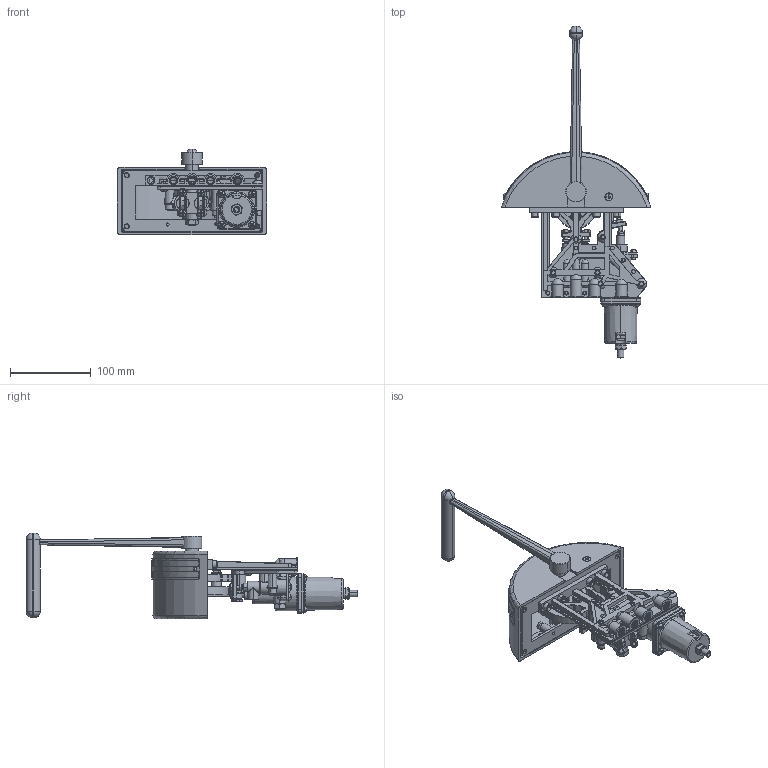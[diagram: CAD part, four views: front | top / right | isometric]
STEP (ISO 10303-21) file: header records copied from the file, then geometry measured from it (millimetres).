
FILE_DESCRIPTION (( 'STEP AP214' ), '1' );
FILE_NAME ('2544.STEP', '2019-01-15T19:16:34', ( 'User' ), ( 'Hewlett-Packard Company' ), 'SwSTEP 2.0', 'SolidWorks 2017', '' );
FILE_SCHEMA (( 'AUTOMOTIVE_DESIGN' ));
Length unit declared in the file: millimetre
Products named in the file (1): 2544
Bounding box: 185.52 x 412.07 x 106.51 mm (x, y, z)
Surface area: 267504.3 mm2 (no closed solid volume)
Topology: 0 solids, 120 shells, 1688 faces, 5898 edges, 4174 vertices
Faces by surface type: plane 628, cylinder 550, cone 200, torus 157, bspline 93, sphere 60
Entity records: 108722 total; most frequent: CARTESIAN_POINT 41399, DIRECTION 10372, ORIENTED_EDGE 9087, EDGE_CURVE 5883, VERTEX_POINT 4172, AXIS2_PLACEMENT_3D 4012, CIRCLE 2416, VECTOR 2348
